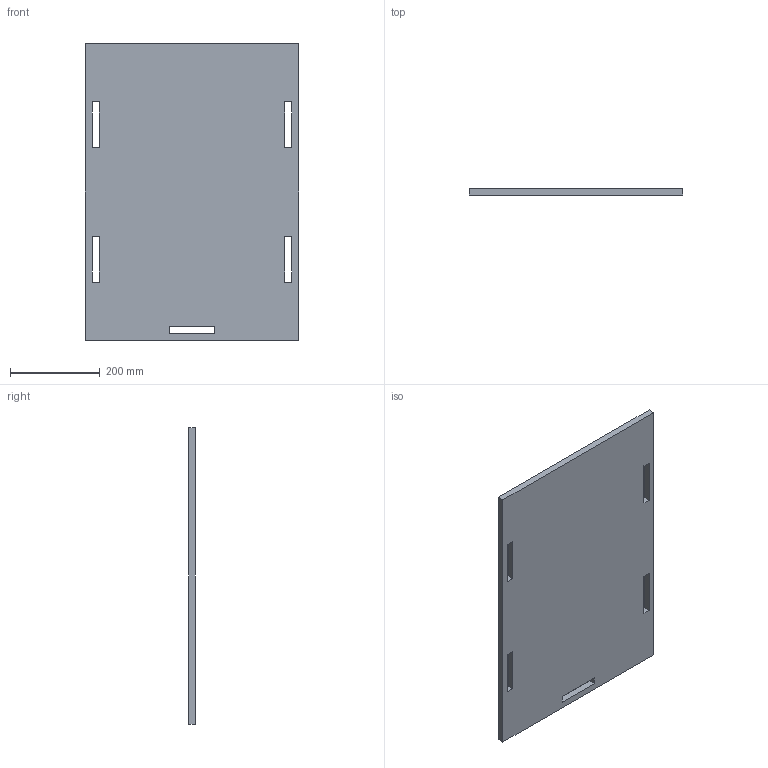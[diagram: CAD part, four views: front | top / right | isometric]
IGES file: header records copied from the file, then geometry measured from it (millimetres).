
Start section: SolidWorks IGES file using analytic representation for surfaces
Global section: file name: C:\Users\user\Documents\1_FabAcademy\week07\SolidW\iges\mueblebasemueble.IGS; native system: SolidWorks 2016; preprocessor: SolidWorks 2016; author: user; date: 170308.170749; units: millimetre
Bounding box: 475 x 15 x 660 mm (x, y, z)
Surface area: 662440 mm2 (no closed solid volume)
Topology: 0 solids, 0 shells, 26 faces, 144 edges, 144 vertices
Faces by surface type: bspline 26
